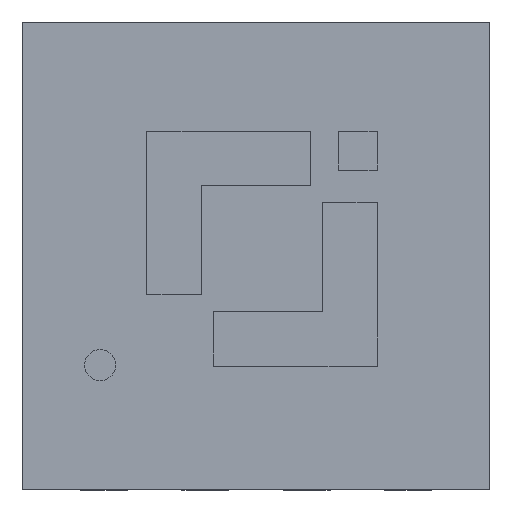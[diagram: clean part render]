
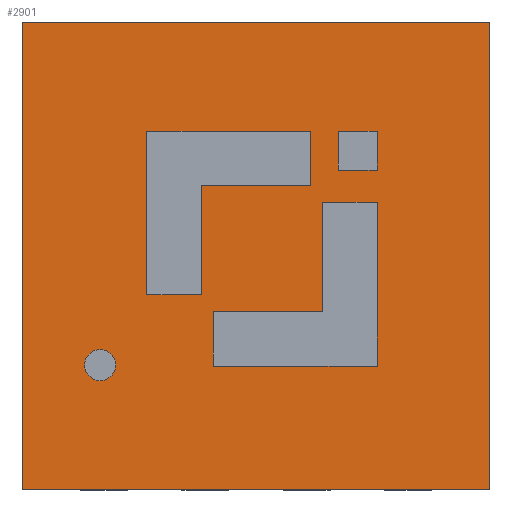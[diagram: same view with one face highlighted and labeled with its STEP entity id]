
A CAD part, top view. The second image highlights one B-rep face of the part: STEP entity #2901.
In plain terms, the highlighted planar face has unit normal (0, 0, 1).
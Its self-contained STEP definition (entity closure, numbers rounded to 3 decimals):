
#2717=CARTESIAN_POINT('',(0.,0.,0.725));
#2718=DIRECTION('',(0.,0.,1.));
#2719=DIRECTION('',(1.,0.,0.));
#2720=AXIS2_PLACEMENT_3D('',#2717,#2718,#2719);
#2721=PLANE('',#2720);
#2722=CARTESIAN_POINT('',(0.527,0.55,0.725));
#2723=VERTEX_POINT('',#2722);
#2724=CARTESIAN_POINT('',(0.777,0.55,0.725));
#2725=VERTEX_POINT('',#2724);
#2726=CARTESIAN_POINT('',(0.527,0.55,0.725));
#2727=DIRECTION('',(1.,0.,-0.));
#2728=VECTOR('',#2727,0.25);
#2729=LINE('',#2726,#2728);
#2730=EDGE_CURVE('',#2723,#2725,#2729,.T.);
#2731=ORIENTED_EDGE('',*,*,#2730,.F.);
#2732=CARTESIAN_POINT('',(0.527,0.8,0.725));
#2733=VERTEX_POINT('',#2732);
#2734=CARTESIAN_POINT('',(0.527,0.8,0.725));
#2735=DIRECTION('',(0.,-1.,0.));
#2736=VECTOR('',#2735,0.25);
#2737=LINE('',#2734,#2736);
#2738=EDGE_CURVE('',#2733,#2723,#2737,.T.);
#2739=ORIENTED_EDGE('',*,*,#2738,.F.);
#2740=CARTESIAN_POINT('',(0.777,0.8,0.725));
#2741=VERTEX_POINT('',#2740);
#2742=CARTESIAN_POINT('',(0.777,0.8,0.725));
#2743=DIRECTION('',(-1.,0.,0.));
#2744=VECTOR('',#2743,0.25);
#2745=LINE('',#2742,#2744);
#2746=EDGE_CURVE('',#2741,#2733,#2745,.T.);
#2747=ORIENTED_EDGE('',*,*,#2746,.F.);
#2748=CARTESIAN_POINT('',(0.777,0.55,0.725));
#2749=DIRECTION('',(0.,1.,0.));
#2750=VECTOR('',#2749,0.25);
#2751=LINE('',#2748,#2750);
#2752=EDGE_CURVE('',#2725,#2741,#2751,.T.);
#2753=ORIENTED_EDGE('',*,*,#2752,.F.);
#2754=EDGE_LOOP('',(#2731,#2739,#2747,#2753));
#2755=FACE_BOUND('',#2754,.T.);
#2756=CARTESIAN_POINT('',(-0.9,-0.7,0.725));
#2757=VERTEX_POINT('',#2756);
#2758=CARTESIAN_POINT('',(-1.,-0.7,0.725));
#2759=DIRECTION('',(0.,0.,1.));
#2760=DIRECTION('',(1.,0.,-0.));
#2761=AXIS2_PLACEMENT_3D('',#2758,#2759,#2760);
#2762=CIRCLE('',#2761,0.1);
#2763=EDGE_CURVE('',#2757,#2757,#2762,.T.);
#2764=ORIENTED_EDGE('',*,*,#2763,.F.);
#2765=EDGE_LOOP('',(#2764));
#2766=FACE_BOUND('',#2765,.T.);
#2767=CARTESIAN_POINT('',(1.5,1.5,0.725));
#2768=VERTEX_POINT('',#2767);
#2769=CARTESIAN_POINT('',(1.5,-1.5,0.725));
#2770=VERTEX_POINT('',#2769);
#2771=CARTESIAN_POINT('',(1.5,1.5,0.725));
#2772=DIRECTION('',(0.,-1.,0.));
#2773=VECTOR('',#2772,3.);
#2774=LINE('',#2771,#2773);
#2775=EDGE_CURVE('',#2768,#2770,#2774,.T.);
#2776=ORIENTED_EDGE('',*,*,#2775,.F.);
#2777=CARTESIAN_POINT('',(-1.5,1.5,0.725));
#2778=VERTEX_POINT('',#2777);
#2779=CARTESIAN_POINT('',(-1.5,1.5,0.725));
#2780=DIRECTION('',(1.,0.,-0.));
#2781=VECTOR('',#2780,3.);
#2782=LINE('',#2779,#2781);
#2783=EDGE_CURVE('',#2778,#2768,#2782,.T.);
#2784=ORIENTED_EDGE('',*,*,#2783,.F.);
#2785=CARTESIAN_POINT('',(-1.5,-1.5,0.725));
#2786=VERTEX_POINT('',#2785);
#2787=CARTESIAN_POINT('',(-1.5,-1.5,0.725));
#2788=DIRECTION('',(-0.,1.,0.));
#2789=VECTOR('',#2788,3.);
#2790=LINE('',#2787,#2789);
#2791=EDGE_CURVE('',#2786,#2778,#2790,.T.);
#2792=ORIENTED_EDGE('',*,*,#2791,.F.);
#2793=CARTESIAN_POINT('',(1.5,-1.5,0.725));
#2794=DIRECTION('',(-1.,-0.,0.));
#2795=VECTOR('',#2794,3.);
#2796=LINE('',#2793,#2795);
#2797=EDGE_CURVE('',#2770,#2786,#2796,.T.);
#2798=ORIENTED_EDGE('',*,*,#2797,.F.);
#2799=EDGE_LOOP('',(#2776,#2784,#2792,#2798));
#2800=FACE_BOUND('',#2799,.T.);
#2801=CARTESIAN_POINT('',(0.427,0.343,0.725));
#2802=VERTEX_POINT('',#2801);
#2803=CARTESIAN_POINT('',(0.777,0.343,0.725));
#2804=VERTEX_POINT('',#2803);
#2805=CARTESIAN_POINT('',(0.427,0.343,0.725));
#2806=DIRECTION('',(1.,0.,-0.));
#2807=VECTOR('',#2806,0.35);
#2808=LINE('',#2805,#2807);
#2809=EDGE_CURVE('',#2802,#2804,#2808,.T.);
#2810=ORIENTED_EDGE('',*,*,#2809,.T.);
#2811=CARTESIAN_POINT('',(0.777,-0.707,0.725));
#2812=VERTEX_POINT('',#2811);
#2813=CARTESIAN_POINT('',(0.777,0.343,0.725));
#2814=DIRECTION('',(0.,-1.,0.));
#2815=VECTOR('',#2814,1.05);
#2816=LINE('',#2813,#2815);
#2817=EDGE_CURVE('',#2804,#2812,#2816,.T.);
#2818=ORIENTED_EDGE('',*,*,#2817,.T.);
#2819=CARTESIAN_POINT('',(-0.273,-0.707,0.725));
#2820=VERTEX_POINT('',#2819);
#2821=CARTESIAN_POINT('',(0.777,-0.707,0.725));
#2822=DIRECTION('',(-1.,0.,0.));
#2823=VECTOR('',#2822,1.05);
#2824=LINE('',#2821,#2823);
#2825=EDGE_CURVE('',#2812,#2820,#2824,.T.);
#2826=ORIENTED_EDGE('',*,*,#2825,.T.);
#2827=CARTESIAN_POINT('',(-0.273,-0.357,0.725));
#2828=VERTEX_POINT('',#2827);
#2829=CARTESIAN_POINT('',(-0.273,-0.707,0.725));
#2830=DIRECTION('',(0.,1.,0.));
#2831=VECTOR('',#2830,0.35);
#2832=LINE('',#2829,#2831);
#2833=EDGE_CURVE('',#2820,#2828,#2832,.T.);
#2834=ORIENTED_EDGE('',*,*,#2833,.T.);
#2835=CARTESIAN_POINT('',(0.427,-0.357,0.725));
#2836=VERTEX_POINT('',#2835);
#2837=CARTESIAN_POINT('',(-0.273,-0.357,0.725));
#2838=DIRECTION('',(1.,0.,-0.));
#2839=VECTOR('',#2838,0.7);
#2840=LINE('',#2837,#2839);
#2841=EDGE_CURVE('',#2828,#2836,#2840,.T.);
#2842=ORIENTED_EDGE('',*,*,#2841,.T.);
#2843=CARTESIAN_POINT('',(0.427,-0.357,0.725));
#2844=DIRECTION('',(0.,1.,0.));
#2845=VECTOR('',#2844,0.7);
#2846=LINE('',#2843,#2845);
#2847=EDGE_CURVE('',#2836,#2802,#2846,.T.);
#2848=ORIENTED_EDGE('',*,*,#2847,.T.);
#2849=EDGE_LOOP('',(#2810,#2818,#2826,#2834,#2842,#2848));
#2850=FACE_BOUND('',#2849,.T.);
#2851=CARTESIAN_POINT('',(-0.7,0.8,0.725));
#2852=VERTEX_POINT('',#2851);
#2853=CARTESIAN_POINT('',(0.35,0.8,0.725));
#2854=VERTEX_POINT('',#2853);
#2855=CARTESIAN_POINT('',(-0.7,0.8,0.725));
#2856=DIRECTION('',(1.,0.,-0.));
#2857=VECTOR('',#2856,1.05);
#2858=LINE('',#2855,#2857);
#2859=EDGE_CURVE('',#2852,#2854,#2858,.T.);
#2860=ORIENTED_EDGE('',*,*,#2859,.T.);
#2861=CARTESIAN_POINT('',(0.35,0.45,0.725));
#2862=VERTEX_POINT('',#2861);
#2863=CARTESIAN_POINT('',(0.35,0.8,0.725));
#2864=DIRECTION('',(-0.,-1.,0.));
#2865=VECTOR('',#2864,0.35);
#2866=LINE('',#2863,#2865);
#2867=EDGE_CURVE('',#2854,#2862,#2866,.T.);
#2868=ORIENTED_EDGE('',*,*,#2867,.T.);
#2869=CARTESIAN_POINT('',(-0.35,0.45,0.725));
#2870=VERTEX_POINT('',#2869);
#2871=CARTESIAN_POINT('',(0.35,0.45,0.725));
#2872=DIRECTION('',(-1.,0.,0.));
#2873=VECTOR('',#2872,0.7);
#2874=LINE('',#2871,#2873);
#2875=EDGE_CURVE('',#2862,#2870,#2874,.T.);
#2876=ORIENTED_EDGE('',*,*,#2875,.T.);
#2877=CARTESIAN_POINT('',(-0.35,-0.25,0.725));
#2878=VERTEX_POINT('',#2877);
#2879=CARTESIAN_POINT('',(-0.35,0.45,0.725));
#2880=DIRECTION('',(0.,-1.,0.));
#2881=VECTOR('',#2880,0.7);
#2882=LINE('',#2879,#2881);
#2883=EDGE_CURVE('',#2870,#2878,#2882,.T.);
#2884=ORIENTED_EDGE('',*,*,#2883,.T.);
#2885=CARTESIAN_POINT('',(-0.7,-0.25,0.725));
#2886=VERTEX_POINT('',#2885);
#2887=CARTESIAN_POINT('',(-0.35,-0.25,0.725));
#2888=DIRECTION('',(-1.,-0.,0.));
#2889=VECTOR('',#2888,0.35);
#2890=LINE('',#2887,#2889);
#2891=EDGE_CURVE('',#2878,#2886,#2890,.T.);
#2892=ORIENTED_EDGE('',*,*,#2891,.T.);
#2893=CARTESIAN_POINT('',(-0.7,-0.25,0.725));
#2894=DIRECTION('',(0.,1.,0.));
#2895=VECTOR('',#2894,1.05);
#2896=LINE('',#2893,#2895);
#2897=EDGE_CURVE('',#2886,#2852,#2896,.T.);
#2898=ORIENTED_EDGE('',*,*,#2897,.T.);
#2899=EDGE_LOOP('',(#2860,#2868,#2876,#2884,#2892,#2898));
#2900=FACE_BOUND('',#2899,.T.);
#2901=ADVANCED_FACE('',(#2755,#2766,#2800,#2850,#2900),#2721,.T.);
